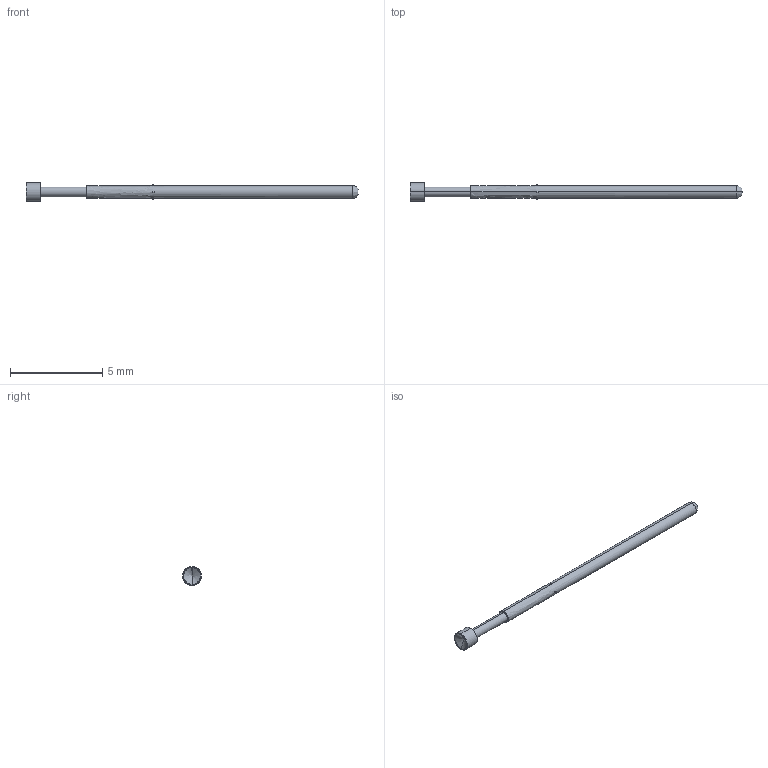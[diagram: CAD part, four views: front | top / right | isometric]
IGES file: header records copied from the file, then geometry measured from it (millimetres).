
Start section: SolidWorks IGES file using analytic representation for surfaces
Global section: file name: O:\PYLON\IGES FILES\P2662A\P2662A-2V1S.IGS; native system: SolidWorks 2015; preprocessor: SolidWorks 2015; author: kgolden; date: 171019.091424; units: inch
Bounding box: 18 x 1.02 x 1.02 mm (x, y, z)
Surface area: 42.7 mm2 (no closed solid volume)
Topology: 0 solids, 0 shells, 24 faces, 256 edges, 238 vertices
Faces by surface type: revolution 18, bspline 6
